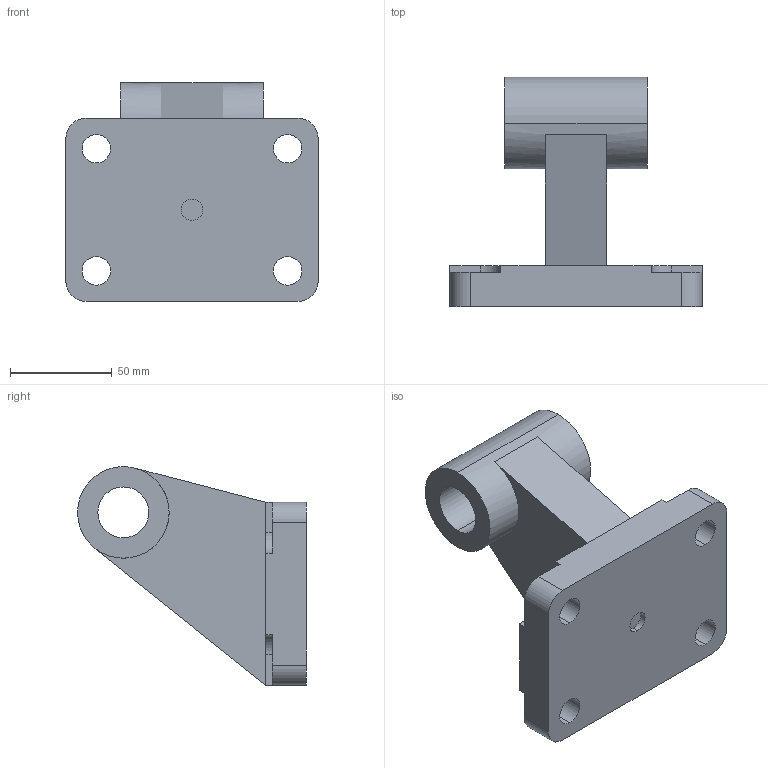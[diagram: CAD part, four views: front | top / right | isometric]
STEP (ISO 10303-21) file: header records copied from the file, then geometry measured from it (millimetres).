
FILE_DESCRIPTION (( 'STEP AP214' ), '1' );
FILE_NAME ('LNUI-125.STEP', '2013-05-17T11:34:02', ( '' ), ( '' ), 'SwSTEP 2.0', 'SolidWorks 2009', '' );
FILE_SCHEMA (( 'AUTOMOTIVE_DESIGN' ));
Length unit declared in the file: millimetre
Products named in the file (1): LNUI-125
Bounding box: 124 x 112.5 x 107.5 mm (x, y, z)
Volume: 406657.7 mm3; surface area: 58321.5 mm2
Topology: 1 solids, 1 shells, 48 faces, 131 edges, 86 vertices
Faces by surface type: plane 26, cylinder 22
Entity records: 1585 total; most frequent: DIRECTION 277, CARTESIAN_POINT 266, ORIENTED_EDGE 262, EDGE_CURVE 131, AXIS2_PLACEMENT_3D 97, VERTEX_POINT 86, VECTOR 83, LINE 83
